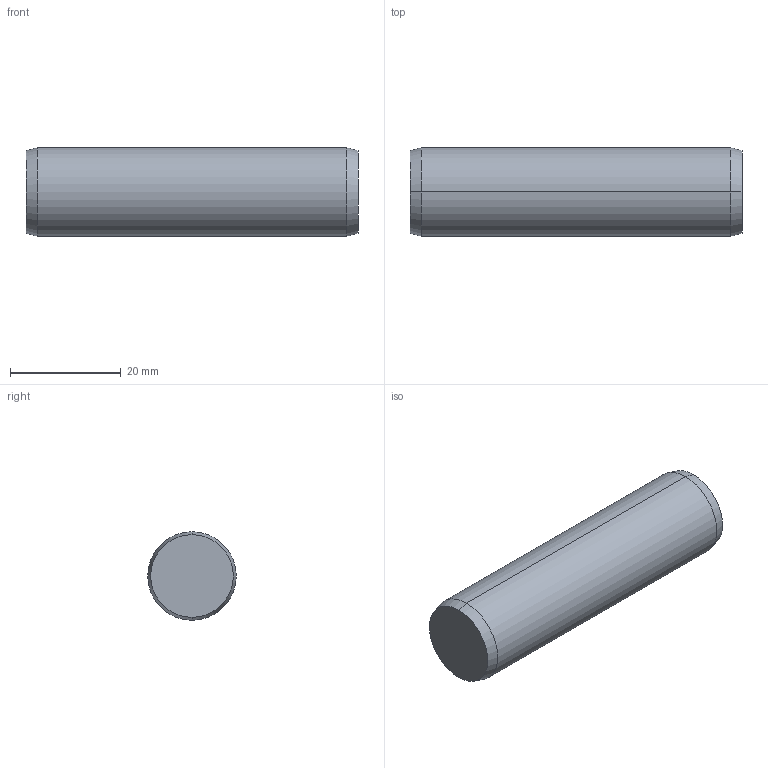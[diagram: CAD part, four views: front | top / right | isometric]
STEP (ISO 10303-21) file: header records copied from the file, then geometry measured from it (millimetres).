
FILE_DESCRIPTION (( 'STEP AP203' ), '1' );
FILE_NAME ('P1206.160-060.step', '2017-06-14T08:43:13', ( 'User' ), ( '' ), 'SwSTEP 2.0', 'SolidWorks 2009', '' );
FILE_SCHEMA (( 'CONFIG_CONTROL_DESIGN' ));
Length unit declared in the file: millimetre
Products named in the file (1): P1206.160-060
Bounding box: 60 x 16 x 16 mm (x, y, z)
Volume: 12011 mm3; surface area: 3366.1 mm2
Topology: 1 solids, 1 shells, 8 faces, 14 edges, 8 vertices
Faces by surface type: cone 4, cylinder 2, plane 2
Entity records: 271 total; most frequent: DIRECTION 40, CARTESIAN_POINT 31, ORIENTED_EDGE 28, AXIS2_PLACEMENT_3D 17, EDGE_CURVE 14, ADVANCED_FACE 8, VERTEX_POINT 8, EDGE_LOOP 8
